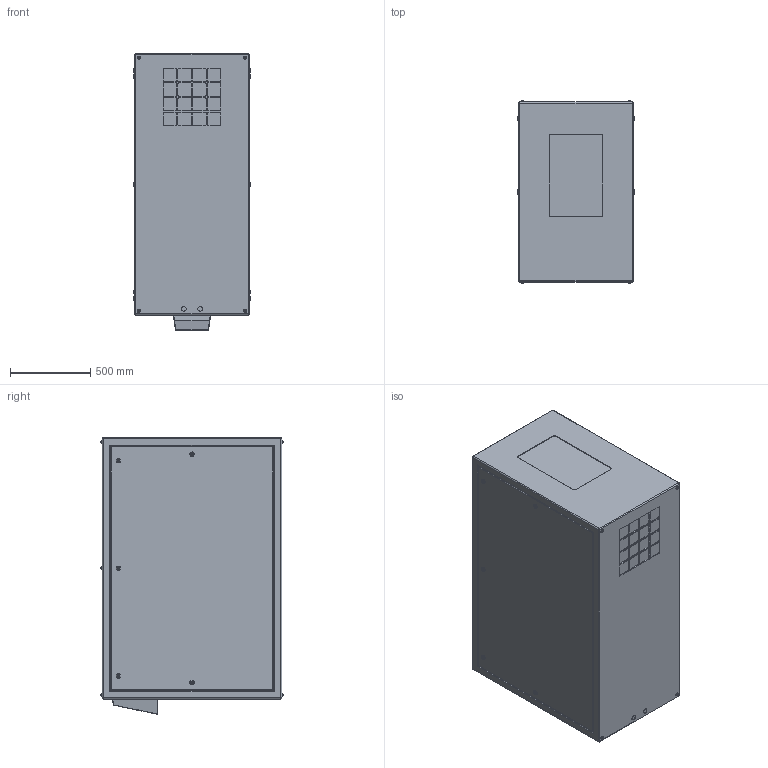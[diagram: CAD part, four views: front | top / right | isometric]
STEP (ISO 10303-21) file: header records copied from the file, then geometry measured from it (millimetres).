
FILE_DESCRIPTION (( 'STEP AP214' ), '1' );
FILE_NAME ('Cyclone 55.522.P R10.STEP', '2022-09-08T22:08:27', ( '' ), ( '' ), 'SwSTEP 2.0', 'SolidWorks 2020', '' );
FILE_SCHEMA (( 'AUTOMOTIVE_DESIGN' ));
Length unit declared in the file: inch
Products named in the file (1): Cyclone 55.522.P R10
Bounding box: 723.9 x 1132.2 x 1720.85 mm (x, y, z)
Volume: 381100976.8 mm3; surface area: 14140393.1 mm2
Topology: 1 solids, 8 shells, 582 faces, 1356 edges, 868 vertices
Faces by surface type: plane 278, cylinder 244, torus 52, sphere 8
Entity records: 21637 total; most frequent: CARTESIAN_POINT 3375, DIRECTION 2958, ORIENTED_EDGE 2696, EDGE_CURVE 1348, AXIS2_PLACEMENT_3D 1123, VERTEX_POINT 868, LINE 712, VECTOR 712
